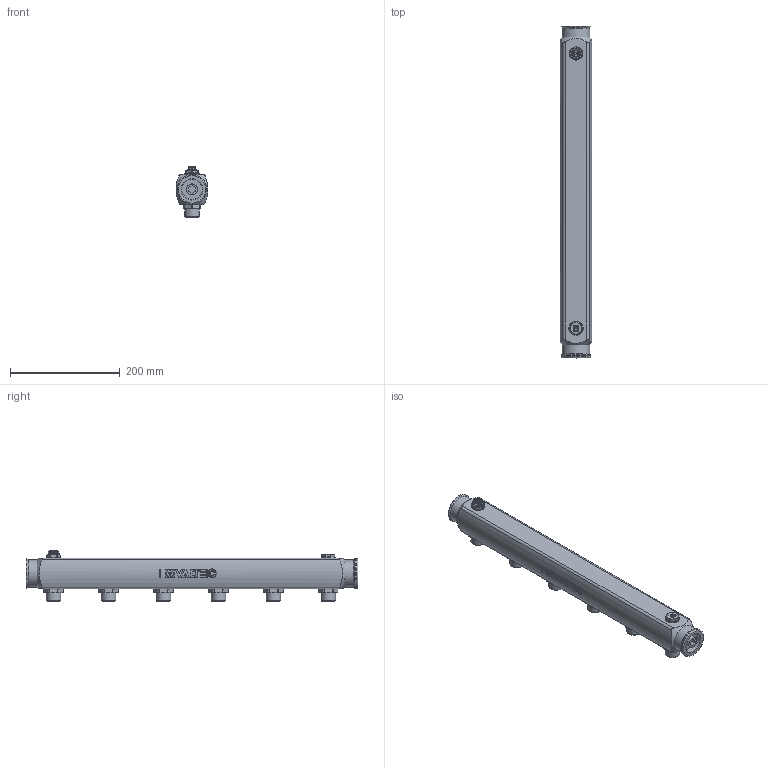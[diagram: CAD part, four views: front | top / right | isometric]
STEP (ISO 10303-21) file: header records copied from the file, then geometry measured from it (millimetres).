
FILE_DESCRIPTION(('STEP AP203'), '1');
FILE_NAME('VTc.510.SS.080506', '', ('UNSPECIFIED'), ('UNSPECIFIED'), 'C3D Converter', 'C3D Toolkit', '');
FILE_SCHEMA(('CONFIG_CONTROL_DESIGN'));
Length unit declared in the file: millimetre
Bounding box: 58 x 604 x 91.6 mm (x, y, z)
Volume: 1736070.3 mm3; surface area: 153472.5 mm2
Topology: 1 solids, 5 shells, 932 faces, 2363 edges, 1515 vertices
Faces by surface type: plane 377, extrusion 216, cylinder 149, cone 122, bspline 52, torus 16
Full cylindrical faces by diameter (mm): 5 x1, 10.2 x1, 19.5 x6, 20 x1, 22 x1, 24 x1, 26 x1, 26.441 x6, 37 x1, 44.85 x1, 50 x2, 54 x3
Entity records: 51789 total; most frequent: CARTESIAN_POINT 31770, ORIENTED_EDGE 4532, DIRECTION 3215, EDGE_CURVE 2266, VERTEX_POINT 1495, VECTOR 1135, B_SPLINE_CURVE_WITH_KNOTS 1100, EDGE_LOOP 1043
